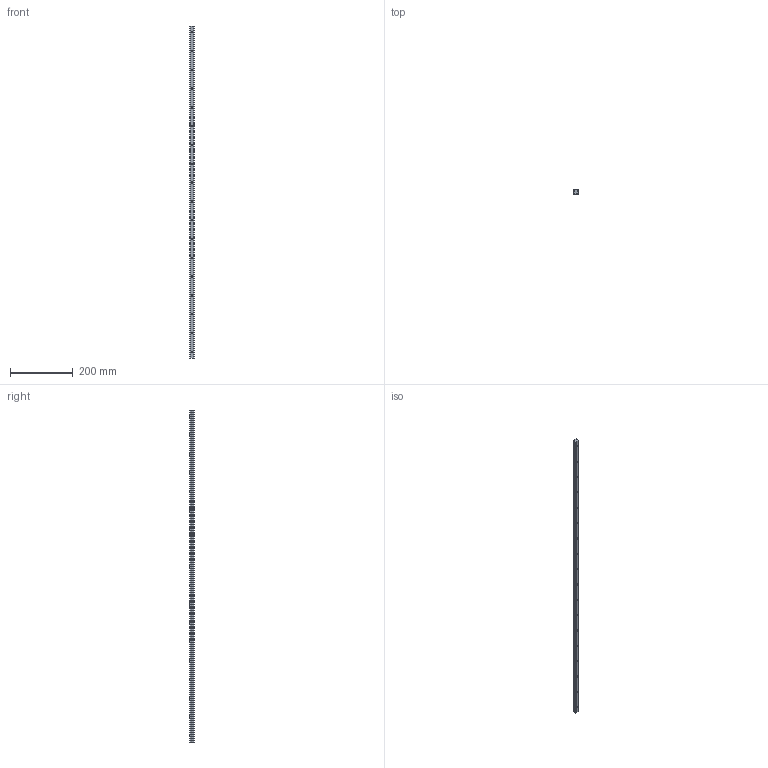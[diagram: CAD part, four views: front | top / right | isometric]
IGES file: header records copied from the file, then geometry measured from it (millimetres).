
Start section: SolidWorks IGES file using analytic representation for surfaces
Global section: file name: C:\Users\IanO\Desktop\L1016_v2\L1016.BL15_v2\L1016.BL15_v2_20190611_IGES\L1016.BL15-1060.igs; native system: SolidWorks 2017; preprocessor: SolidWorks 2017; author: IanO; date: 190612.122732; units: millimetre
Bounding box: 15 x 13 x 1060 mm (x, y, z)
Surface area: 65006 mm2 (no closed solid volume)
Topology: 0 solids, 0 shells, 116 faces, 2744 edges, 2744 vertices
Faces by surface type: revolution 76, bspline 40
